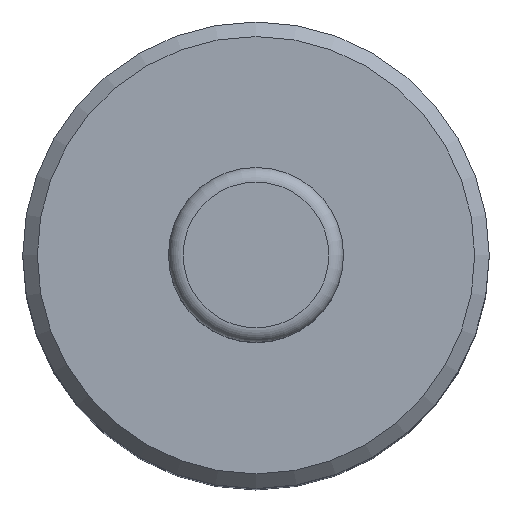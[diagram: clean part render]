
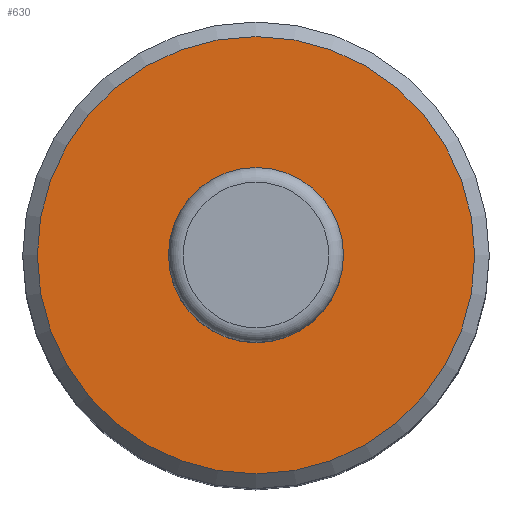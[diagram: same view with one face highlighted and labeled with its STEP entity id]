
A CAD part, top view. The second image highlights one B-rep face of the part: STEP entity #630.
In plain terms, the highlighted planar face has unit normal (0, 0, 1).
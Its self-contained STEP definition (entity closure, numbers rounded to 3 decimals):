
#610 = VERTEX_POINT('',#611);
#611 = CARTESIAN_POINT('',(15.,0.,59.));
#619 = EDGE_CURVE('',#610,#610,#620,.T.);
#620 = CIRCLE('',#621,15.);
#621 = AXIS2_PLACEMENT_3D('',#622,#623,#624);
#622 = CARTESIAN_POINT('',(0.,0.,59.));
#623 = DIRECTION('',(0.,0.,1.));
#624 = DIRECTION('',(1.,0.,0.));
#630 = ADVANCED_FACE('',(#631),#634,.T.);
#631 = FACE_BOUND('',#632,.T.);
#632 = EDGE_LOOP('',(#633));
#633 = ORIENTED_EDGE('',*,*,#619,.T.);
#634 = PLANE('',#635);
#635 = AXIS2_PLACEMENT_3D('',#636,#637,#638);
#636 = CARTESIAN_POINT('',(0.,0.,59.));
#637 = DIRECTION('',(0.,0.,1.));
#638 = DIRECTION('',(1.,0.,0.));
